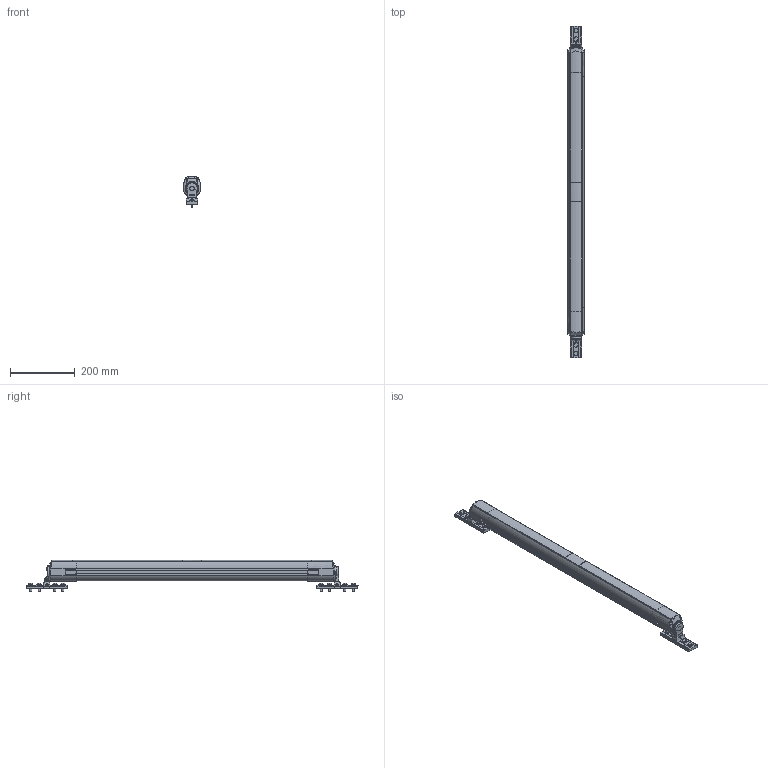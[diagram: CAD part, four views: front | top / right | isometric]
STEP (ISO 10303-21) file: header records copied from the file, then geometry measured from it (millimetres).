
FILE_DESCRIPTION((''),'2;1');
FILE_NAME('M:\INVENTORjob\Konstruktion\LAS 6025\Baugruppe\Vorschlag 4 2_Überarbeitung\STP-Daten Geräte\Receiver Basic 1\MLD510 R3.stp','2011-05-20T10:03:10',('seisen'),(''),'Autodesk Inventor 2009','Autodesk Inventor 2009','');
FILE_SCHEMA(('AUTOMOTIVE_DESIGN { 1 0 10303 214 1 1 1 1 }'));
Length unit declared in the file: millimetre
Products named in the file (9): MLD510 R3; Abdeckung_Kappe_T; Abdeckung_Kappe; NUTENSTEIN-M6; BT-240_C_1; BT-240_C_2; BT-240_B_1; BT-240_B_2
Assembly tree (9 placements, depth 2):
  MLD510 R3
    MLD510 R3
    Abdeckung_Kappe_T
    Abdeckung_Kappe
    NUTENSTEIN-M6  x2
    BT-240_C_1
    BT-240_C_2
    BT-240_B_1
    BT-240_B_2
Bounding box: 52 x 1028.9 x 97.3 mm (x, y, z)
Volume: 2184640.1 mm3; surface area: 366366.2 mm2
Topology: 14 solids, 20 shells, 1244 faces, 3397 edges, 2200 vertices
Faces by surface type: plane 590, cylinder 269, bspline 254, cone 84, torus 28, sphere 19
Full cylindrical faces by diameter (mm): 4.65 x2, 5 x6, 5.3 x10, 5.55 x2, 6 x8, 8.5 x6, 8.6 x6, 13.8 x8, 14 x2, 16.15 x2, 21 x2, 22 x1, 23.4 x1, 31 x2, 32 x1, 33.6 x2, 35.19 x2, 41 x2
Entity records: 48537 total; most frequent: CARTESIAN_POINT 17794, ORIENTED_EDGE 6250, DIRECTION 5707, EDGE_CURVE 3125, VERTEX_POINT 2097, AXIS2_PLACEMENT_3D 1972, VECTOR 1763, LINE 1763
